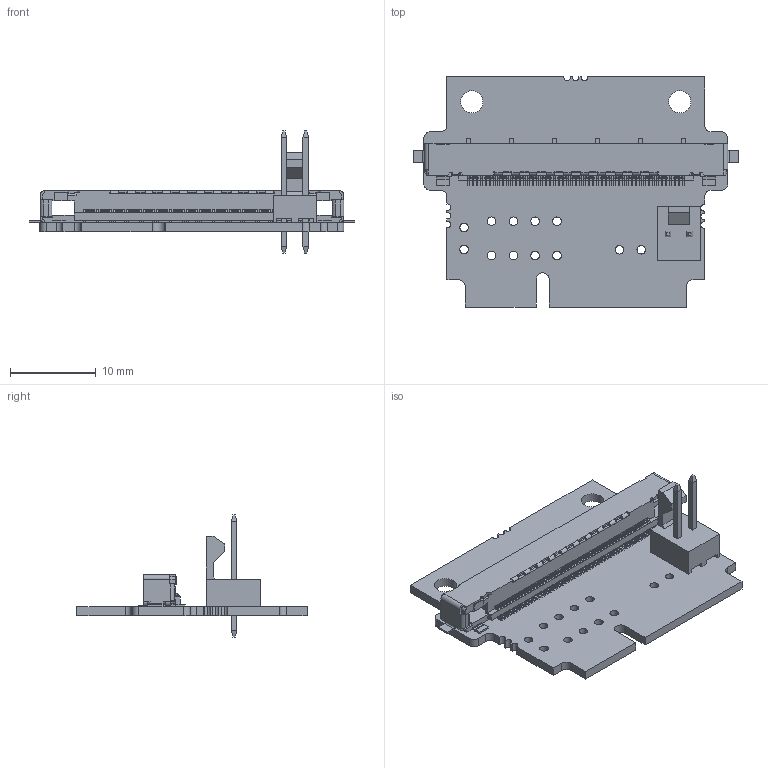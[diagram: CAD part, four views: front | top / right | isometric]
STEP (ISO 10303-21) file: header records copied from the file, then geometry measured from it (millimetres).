
FILE_DESCRIPTION(/* description */ ('step model'),/* implementation_level */ '2;1');
FILE_NAME(/* name */ 'ADPT-MX-X4G2-MINI-PCIE-FL.stp',/* time_stamp */ '2017-09-04T14:37:20+02:00',/* author */ ('Spano'),/* organization */ ('Ximea'),/* preprocessor_version */ 'ST-DEVELOPER v16',/* originating_system */ 'SIEMENS PLM Software NX 11.0',/* authorisation */ '');
FILE_SCHEMA (('AUTOMOTIVE_DESIGN { 1 0 10303 214 3 1 1 1 }'));
Length unit declared in the file: millimetre
Products named in the file (1): ADPT-MX-X4G2-MINI-PCIE-FL
Bounding box: 37.85 x 26.8 x 14.22 mm (x, y, z)
Volume: 1366.4 mm3; surface area: 2914.7 mm2
Topology: 5 solids, 5 shells, 1576 faces, 4439 edges, 2906 vertices
Faces by surface type: plane 1227, cylinder 349
Full cylindrical faces by diameter (mm): 1 x14, 2.6 x2
Entity records: 50907 total; most frequent: CARTESIAN_POINT 9240, ORIENTED_EDGE 8878, DIRECTION 8311, EDGE_CURVE 4439, LINE 3589, VECTOR 3589, VERTEX_POINT 2906, AXIS2_PLACEMENT_3D 2361
